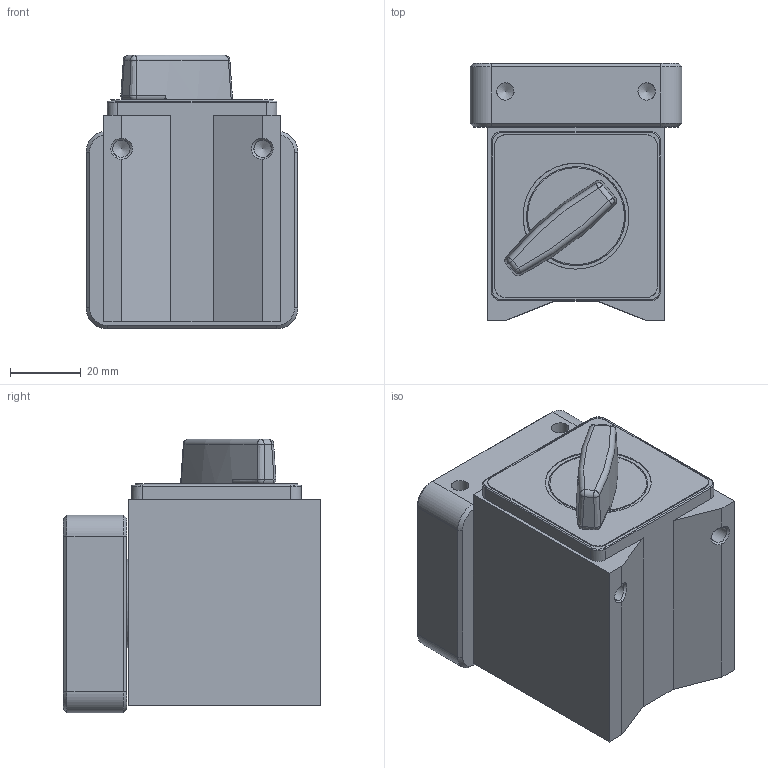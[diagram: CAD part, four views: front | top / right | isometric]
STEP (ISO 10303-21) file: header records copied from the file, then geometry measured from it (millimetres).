
FILE_DESCRIPTION(/* description */ (''),/* implementation_level */ '2;1');
FILE_NAME(/* name */ 'LA-9936-0633-A MAGNETIC BASE WITH ROTATING HEAD.stp',/* time_stamp */ '2021-04-06T15:10:04+01:00',/* author */ (''),/* organization */ (''),/* preprocessor_version */ 'ST-DEVELOPER v16.7',/* originating_system */ 'SIEMENS PLM Software NX 1942',/* authorisation */ '');
FILE_SCHEMA (('AUTOMOTIVE_DESIGN { 1 0 10303 214 3 1 1 1 }'));
Length unit declared in the file: millimetre
Products named in the file (1): LA-9936-0633-A_MAGNETIC BASE WITH ROTATING HEAD
Bounding box: 60 x 72.8 x 77.5 mm (x, y, z)
Volume: 217828.4 mm3; surface area: 31521.5 mm2
Topology: 1 solids, 1 shells, 136 faces, 345 edges, 212 vertices
Faces by surface type: cylinder 41, plane 41, cone 33, torus 9, sphere 6, bspline 6
Full cylindrical faces by diameter (mm): 4.917 x13, 8 x1, 16.1 x1, 18 x1, 25 x1, 44.5 x1
Entity records: 5366 total; most frequent: CARTESIAN_POINT 2420, ORIENTED_EDGE 542, DIRECTION 275, EDGE_CURVE 271, B_SPLINE_CURVE_WITH_KNOTS 264, VERTEX_POINT 194, EDGE_LOOP 180, AXIS2_PLACEMENT_3D 137
